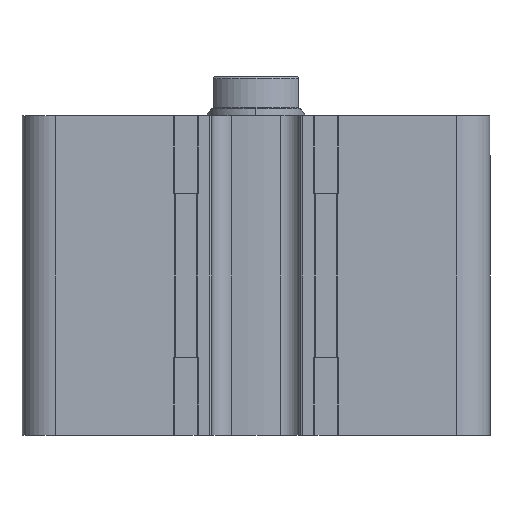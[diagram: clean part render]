
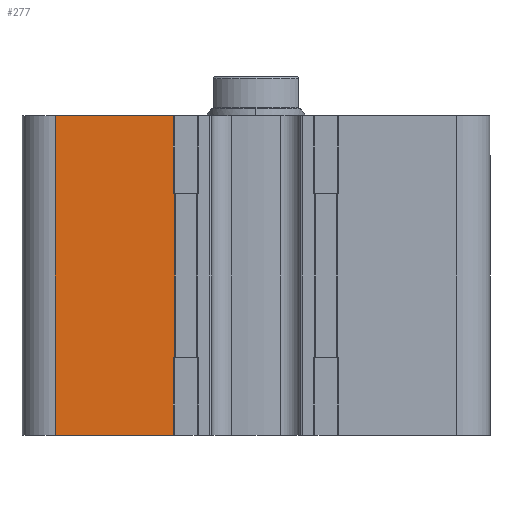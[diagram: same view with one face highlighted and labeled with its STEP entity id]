
A CAD part, left-side view. The second image highlights one B-rep face of the part: STEP entity #277.
In plain terms, the highlighted planar face has unit normal (-1, 0, 0).
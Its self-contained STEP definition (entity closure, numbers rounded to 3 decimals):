
#277 = ADVANCED_FACE ( 'NONE', ( #11709 ), #1659, .F. ) ;
#480 = EDGE_CURVE ( 'NONE', #17402, #5906, #5788, .T. ) ;
#1037 = EDGE_LOOP ( 'NONE', ( #10397, #10398, #10399, #10400, #10401, #10402, #10403, #10404 ) ) ;
#1374 = AXIS2_PLACEMENT_3D ( 'NONE', #1656, #1661, #1662 ) ;
#1656 = CARTESIAN_POINT ( 'NONE',  ( -60., 60., 42. ) ) ;
#1659 = PLANE ( 'NONE',  #1374 ) ;
#1661 = DIRECTION ( 'NONE',  ( 1., 0., 0. ) ) ;
#1662 = DIRECTION ( 'NONE',  ( 0., 1., 0. ) ) ;
#3446 = CARTESIAN_POINT ( 'NONE',  ( -60., 51.5, -20. ) ) ;
#4301 = CARTESIAN_POINT ( 'NONE',  ( -60., 60., 62. ) ) ;
#4302 = DIRECTION ( 'NONE',  ( 0., -1., 0. ) ) ;
#4508 = DIRECTION ( 'NONE',  ( 0., -1., 0. ) ) ;
#4512 = CARTESIAN_POINT ( 'NONE',  ( -60., 60., 42. ) ) ;
#4741 = DIRECTION ( 'NONE',  ( 0., -1., 0. ) ) ;
#4745 = CARTESIAN_POINT ( 'NONE',  ( -60., 60., 0. ) ) ;
#4759 = CARTESIAN_POINT ( 'NONE',  ( -60., 51.5, 42. ) ) ;
#4760 = DIRECTION ( 'NONE',  ( 0., 0., -1. ) ) ;
#4761 = CARTESIAN_POINT ( 'NONE',  ( -60., 21.2, 213.606 ) ) ;
#4762 = DIRECTION ( 'NONE',  ( 0., 0., -1. ) ) ;
#4763 = CARTESIAN_POINT ( 'NONE',  ( -60., 20.875, 42. ) ) ;
#4764 = DIRECTION ( 'NONE',  ( 0., 0., 1. ) ) ;
#4765 = CARTESIAN_POINT ( 'NONE',  ( -60., 21.2, 213.606 ) ) ;
#4767 = DIRECTION ( 'NONE',  ( 0., 0., -1. ) ) ;
#5059 = CARTESIAN_POINT ( 'NONE',  ( -60., 51.5, 62. ) ) ;
#5060 = CARTESIAN_POINT ( 'NONE',  ( -60., 21.2, 62. ) ) ;
#5115 = CARTESIAN_POINT ( 'NONE',  ( -60., 21.2, 42. ) ) ;
#5116 = CARTESIAN_POINT ( 'NONE',  ( -60., 20.875, 42. ) ) ;
#5160 = CARTESIAN_POINT ( 'NONE',  ( -60., 21.2, 0. ) ) ;
#5208 = CARTESIAN_POINT ( 'NONE',  ( -60., 20.875, 0. ) ) ;
#5788 = LINE ( 'NONE', #15278, #5790 ) ;
#5790 = VECTOR ( 'NONE', #15279, 1000. ) ;
#5906 = VERTEX_POINT ( 'NONE', #3446 ) ;
#9713 = CARTESIAN_POINT ( 'NONE',  ( -60., 21.2, -20. ) ) ;
#10397 = ORIENTED_EDGE ( 'NONE', *, *, #11204, .T. ) ;
#10398 = ORIENTED_EDGE ( 'NONE', *, *, #480, .F. ) ;
#10399 = ORIENTED_EDGE ( 'NONE', *, *, #11205, .F. ) ;
#10400 = ORIENTED_EDGE ( 'NONE', *, *, #11199, .T. ) ;
#10401 = ORIENTED_EDGE ( 'NONE', *, *, #11206, .T. ) ;
#10402 = ORIENTED_EDGE ( 'NONE', *, *, #11106, .F. ) ;
#10403 = ORIENTED_EDGE ( 'NONE', *, *, #11207, .F. ) ;
#10404 = ORIENTED_EDGE ( 'NONE', *, *, #11028, .F. ) ;
#11028 = EDGE_CURVE ( 'NONE', #13216, #13217, #16039, .T. ) ;
#11106 = EDGE_CURVE ( 'NONE', #13272, #13273, #16144, .T. ) ;
#11199 = EDGE_CURVE ( 'NONE', #13317, #13365, #16283, .T. ) ;
#11204 = EDGE_CURVE ( 'NONE', #13216, #5906, #16292, .T. ) ;
#11205 = EDGE_CURVE ( 'NONE', #13317, #17402, #16294, .T. ) ;
#11206 = EDGE_CURVE ( 'NONE', #13365, #13273, #16296, .T. ) ;
#11207 = EDGE_CURVE ( 'NONE', #13217, #13272, #16298, .T. ) ;
#11709 = FACE_OUTER_BOUND ( 'NONE', #1037, .T. ) ;
#13216 = VERTEX_POINT ( 'NONE', #5059 ) ;
#13217 = VERTEX_POINT ( 'NONE', #5060 ) ;
#13272 = VERTEX_POINT ( 'NONE', #5115 ) ;
#13273 = VERTEX_POINT ( 'NONE', #5116 ) ;
#13317 = VERTEX_POINT ( 'NONE', #5160 ) ;
#13365 = VERTEX_POINT ( 'NONE', #5208 ) ;
#15278 = CARTESIAN_POINT ( 'NONE',  ( -60., 60., -20. ) ) ;
#15279 = DIRECTION ( 'NONE',  ( 0., 1., 0. ) ) ;
#16039 = LINE ( 'NONE', #4301, #16041 ) ;
#16041 = VECTOR ( 'NONE', #4302, 1000. ) ;
#16144 = LINE ( 'NONE', #4512, #16146 ) ;
#16146 = VECTOR ( 'NONE', #4508, 1000. ) ;
#16283 = LINE ( 'NONE', #4745, #16285 ) ;
#16285 = VECTOR ( 'NONE', #4741, 1000. ) ;
#16292 = LINE ( 'NONE', #4759, #16295 ) ;
#16294 = LINE ( 'NONE', #4761, #16297 ) ;
#16295 = VECTOR ( 'NONE', #4760, 1000. ) ;
#16296 = LINE ( 'NONE', #4763, #16299 ) ;
#16297 = VECTOR ( 'NONE', #4762, 1000. ) ;
#16298 = LINE ( 'NONE', #4765, #16301 ) ;
#16299 = VECTOR ( 'NONE', #4764, 1000. ) ;
#16301 = VECTOR ( 'NONE', #4767, 1000. ) ;
#17402 = VERTEX_POINT ( 'NONE', #9713 ) ;
